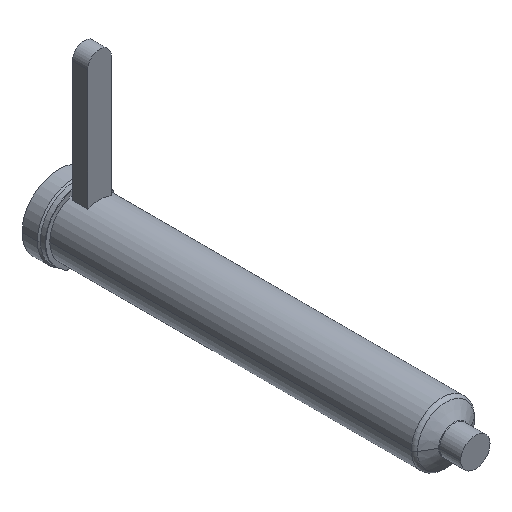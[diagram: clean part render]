
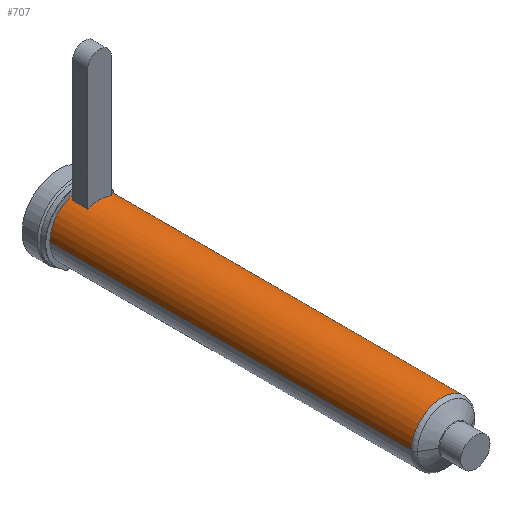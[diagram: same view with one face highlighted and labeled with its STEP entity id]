
A CAD part, isometric view. The second image highlights one B-rep face of the part: STEP entity #707.
In plain terms, the highlighted cylindrical face has radius 21 mm (diameter 42 mm), a partial arc.
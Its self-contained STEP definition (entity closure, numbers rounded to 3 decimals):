
#199=DIRECTION('',(0.,-1.,0.));
#200=VECTOR('',#199,247.228);
#201=CARTESIAN_POINT('',(21.,0.,0.));
#202=LINE('',#201,#200);
#203=CARTESIAN_POINT('',(0.,-247.228,0.));
#204=DIRECTION('',(0.,1.,0.));
#205=DIRECTION('',(-1.,0.,0.));
#206=AXIS2_PLACEMENT_3D('',#203,#204,#205);
#208=DIRECTION('',(0.,1.,0.));
#209=VECTOR('',#208,247.228);
#210=CARTESIAN_POINT('',(-21.,-247.228,0.));
#211=LINE('',#210,#209);
#212=CARTESIAN_POINT('',(0.,0.,0.));
#213=DIRECTION('',(0.,1.,0.));
#214=DIRECTION('',(-1.,0.,0.));
#215=AXIS2_PLACEMENT_3D('',#212,#213,#214);
#293=DIRECTION('',(0.,-1.,0.));
#294=VECTOR('',#293,10.5);
#295=CARTESIAN_POINT('',(-8.,-2.5,19.416));
#296=LINE('',#295,#294);
#297=CARTESIAN_POINT('',(0.,-13.,0.));
#298=DIRECTION('',(0.,1.,0.));
#299=DIRECTION('',(-0.381,0.,0.925));
#300=AXIS2_PLACEMENT_3D('',#297,#298,#299);
#323=CARTESIAN_POINT('',(0.,-2.5,0.));
#324=DIRECTION('',(0.,-1.,0.));
#325=DIRECTION('',(0.381,0.,0.925));
#326=AXIS2_PLACEMENT_3D('',#323,#324,#325);
#341=DIRECTION('',(0.,-1.,0.));
#342=VECTOR('',#341,10.5);
#343=CARTESIAN_POINT('',(8.,-2.5,19.416));
#344=LINE('',#343,#342);
#402=CARTESIAN_POINT('',(-21.,0.,0.));
#403=CARTESIAN_POINT('',(21.,0.,0.));
#404=VERTEX_POINT('',#402);
#405=VERTEX_POINT('',#403);
#414=CARTESIAN_POINT('',(-8.,-2.5,19.416));
#415=VERTEX_POINT('',#414);
#416=CARTESIAN_POINT('',(8.,-2.5,19.416));
#417=VERTEX_POINT('',#416);
#454=CARTESIAN_POINT('',(21.,-247.228,0.));
#455=VERTEX_POINT('',#454);
#464=CARTESIAN_POINT('',(-21.,-247.228,0.));
#465=VERTEX_POINT('',#464);
#466=CARTESIAN_POINT('',(-8.,-13.,19.416));
#467=CARTESIAN_POINT('',(8.,-13.,19.416));
#468=VERTEX_POINT('',#466);
#469=VERTEX_POINT('',#467);
#685=CARTESIAN_POINT('',(0.,16.4,0.));
#686=DIRECTION('',(0.,-1.,0.));
#687=DIRECTION('',(-1.,0.,0.));
#688=AXIS2_PLACEMENT_3D('',#685,#686,#687);
#689=CYLINDRICAL_SURFACE('',#688,21.);
#690=ORIENTED_EDGE('',*,*,#679,.T.);
#692=ORIENTED_EDGE('',*,*,#691,.F.);
#693=ORIENTED_EDGE('',*,*,#675,.T.);
#694=ORIENTED_EDGE('',*,*,#665,.T.);
#695=EDGE_LOOP('',(#690,#692,#693,#694));
#696=FACE_OUTER_BOUND('',#695,.F.);
#698=ORIENTED_EDGE('',*,*,#697,.T.);
#700=ORIENTED_EDGE('',*,*,#699,.T.);
#702=ORIENTED_EDGE('',*,*,#701,.F.);
#704=ORIENTED_EDGE('',*,*,#703,.T.);
#705=EDGE_LOOP('',(#698,#700,#702,#704));
#706=FACE_BOUND('',#705,.F.);
#707=ADVANCED_FACE('',(#696,#706),#689,.T.);
#207=CIRCLE('',#206,21.);
#216=CIRCLE('',#215,21.);
#301=CIRCLE('',#300,21.);
#327=CIRCLE('',#326,21.);
#665=EDGE_CURVE('',#404,#405,#216,.T.);
#675=EDGE_CURVE('',#465,#404,#211,.T.);
#679=EDGE_CURVE('',#405,#455,#202,.T.);
#691=EDGE_CURVE('',#465,#455,#207,.T.);
#697=EDGE_CURVE('',#415,#468,#296,.T.);
#699=EDGE_CURVE('',#468,#469,#301,.T.);
#701=EDGE_CURVE('',#417,#469,#344,.T.);
#703=EDGE_CURVE('',#417,#415,#327,.T.);
